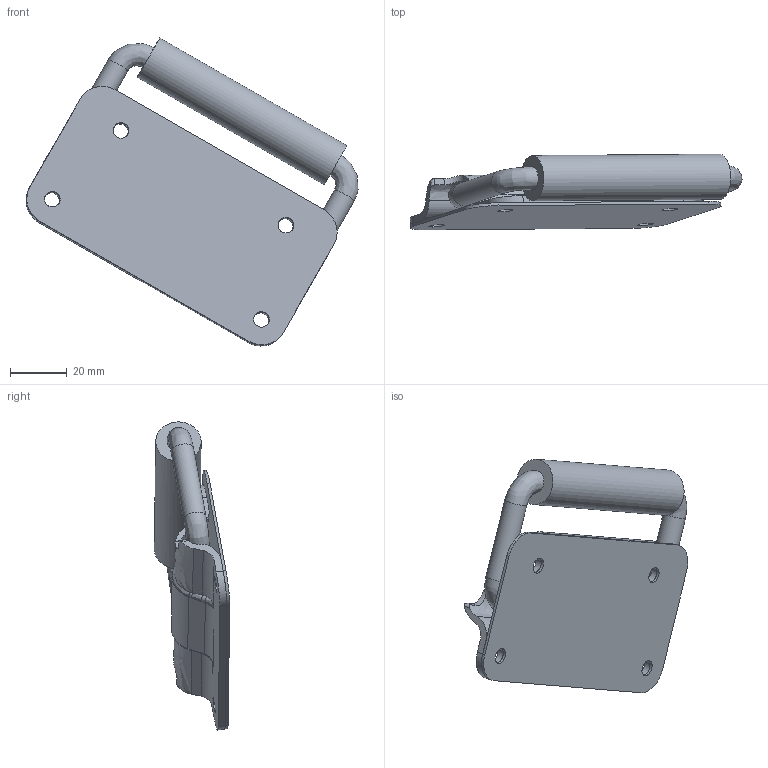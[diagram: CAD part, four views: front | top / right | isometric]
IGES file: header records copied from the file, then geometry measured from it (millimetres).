
Global section: file name: DR_A-FT4-90; native system: Autodesk Inventor 2015; preprocessor: unknown; author: CH.J; date: 20180809.175206; units: millimetre
Bounding box: 116.97 x 26.61 x 108.54 mm (x, y, z)
Volume: 45847.9 mm3; surface area: 32693.4 mm2
Topology: 3 solids, 3 shells, 88 faces, 244 edges, 154 vertices
Faces by surface type: bspline 88
